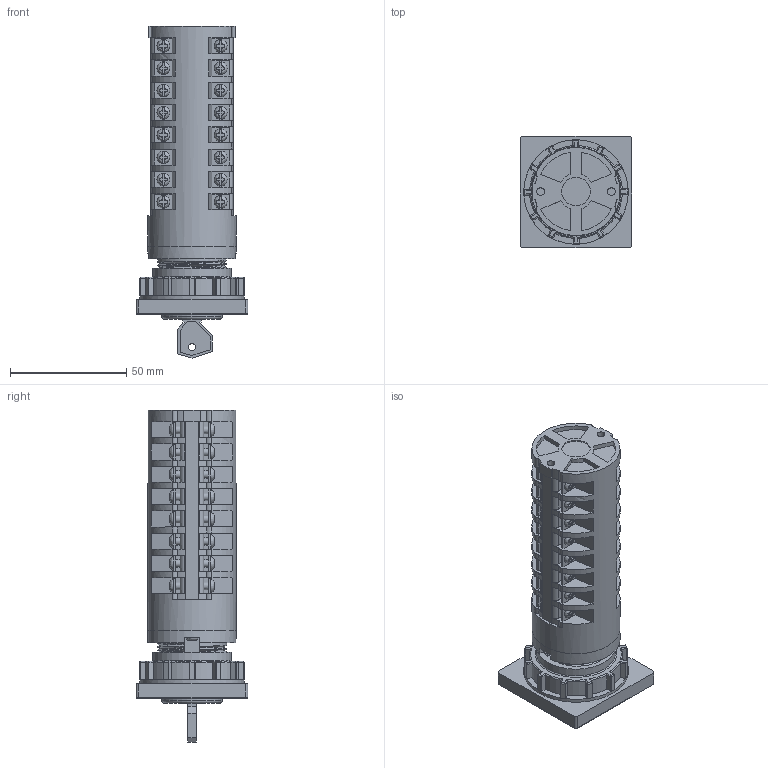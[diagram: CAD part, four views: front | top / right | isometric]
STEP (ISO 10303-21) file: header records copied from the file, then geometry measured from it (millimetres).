
FILE_DESCRIPTION(/* description */ (''),/* implementation_level */ '2;1');
FILE_NAME(/* name */ '4G10-U_wykonanie_S30_8_korpusow.stp',/* time_stamp */ '2021-07-21T09:01:31+02:00',/* author */ (''),/* organization */ (''),/* preprocessor_version */ 'ST-DEVELOPER v18.1',/* originating_system */ 'SIEMENS PLM Software NX 1965',/* authorisation */ '');
FILE_SCHEMA (('AUTOMOTIVE_DESIGN { 1 0 10303 214 3 1 1 1 }'));
Length unit declared in the file: millimetre
Products named in the file (1): 4G10-U_wykonanie_S30_8_korpusow_stp
Bounding box: 48 x 48 x 143.02 mm (x, y, z)
Volume: 130348.5 mm3; surface area: 35459.2 mm2
Topology: 1 solids, 3 shells, 1357 faces, 3696 edges, 2402 vertices
Faces by surface type: plane 1017, cylinder 253, bspline 71, torus 16
Full cylindrical faces by diameter (mm): 3 x1, 3.2 x34, 3.3 x2, 3.4 x2, 12.3 x1, 15 x1, 26 x1, 34 x1, 38 x2, 45 x1
Entity records: 48656 total; most frequent: CARTESIAN_POINT 15214, ORIENTED_EDGE 7104, DIRECTION 6630, EDGE_CURVE 3552, VERTEX_POINT 2364, AXIS2_PLACEMENT_3D 2232, LINE 2166, VECTOR 2166
